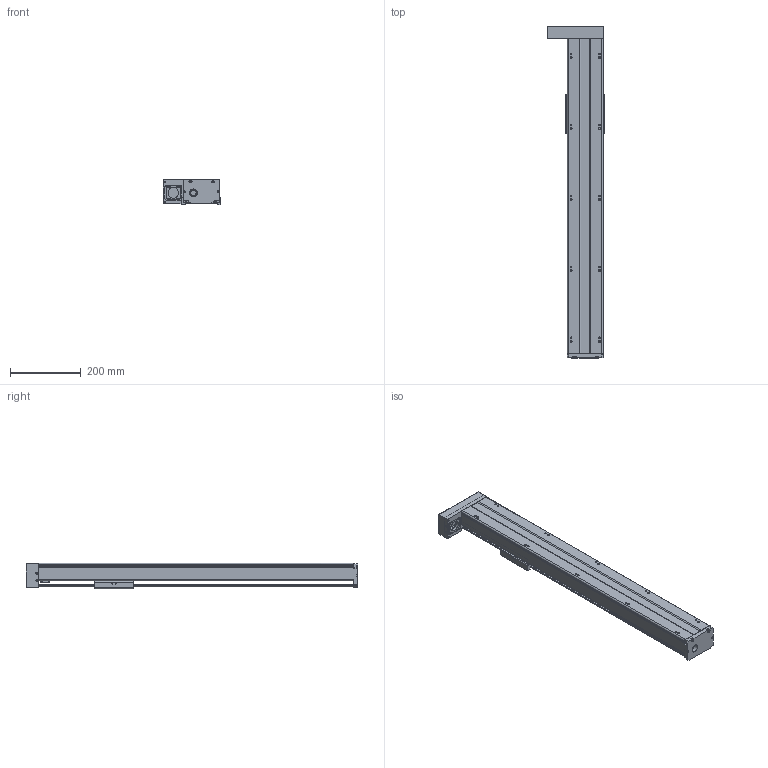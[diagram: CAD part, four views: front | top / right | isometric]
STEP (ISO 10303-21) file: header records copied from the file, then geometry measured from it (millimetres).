
FILE_DESCRIPTION(/* description */ (''),/* implementation_level */ '2;1');
FILE_NAME(/* name */ 'TKA100-FL-700_asm1.stp',/* time_stamp */ '2016-05-17T14:53:40+08:00',/* author */ (''),/* organization */ (''),/* preprocessor_version */ 'ST-DEVELOPER v15',/* originating_system */ 'SIEMENS PLM Software NX 8.5',/* authorisation */ '');
FILE_SCHEMA (('AUTOMOTIVE_DESIGN { 1 0 10303 214 3 1 1 1 }'));
Length unit declared in the file: millimetre
Products named in the file (3): 200-2; 200-1; TKA100-FL-700_asm1
Assembly tree (2 placements, depth 2):
  TKA100-FL-700_asm1
    200-1
    200-2
Bounding box: 162 x 936 x 71 mm (x, y, z)
Volume: 2012835.1 mm3; surface area: 685491.3 mm2
Topology: 2 solids, 16 shells, 792 faces, 2062 edges, 1340 vertices
Faces by surface type: plane 317, cylinder 300, cone 121, torus 28, bspline 26
Full cylindrical faces by diameter (mm): 2.5 x6, 2.6 x8, 3.3 x11, 3.4 x4, 3.8 x8, 4.2 x19, 4.3 x4, 4.5 x10, 5 x2, 5.5 x18, 6.6 x4, 8 x4, 9 x6, 10 x6, 11 x4, 12 x6, 15.3 x1, 16 x1, 22 x1, 24 x1, 28 x2, 30 x1, 33 x1
Entity records: 29172 total; most frequent: CARTESIAN_POINT 10722, DIRECTION 3777, ORIENTED_EDGE 3592, EDGE_CURVE 1796, AXIS2_PLACEMENT_3D 1487, VERTEX_POINT 1272, EDGE_LOOP 1093, LINE 803
